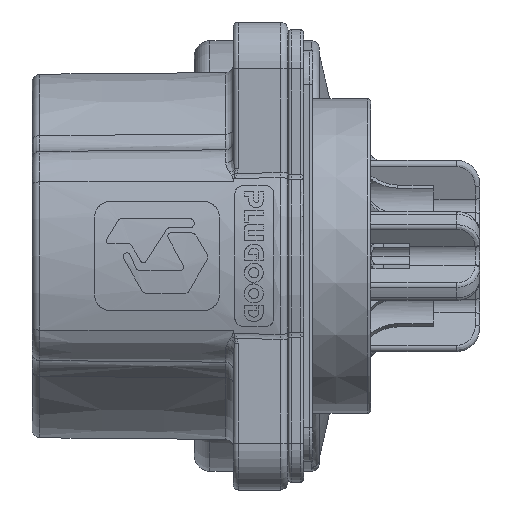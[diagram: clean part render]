
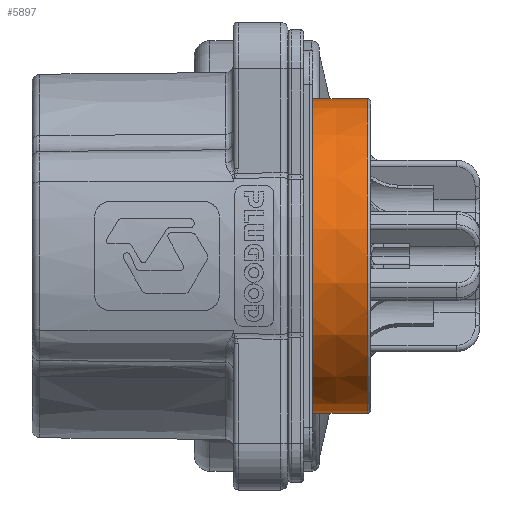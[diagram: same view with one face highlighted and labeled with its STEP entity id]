
A CAD part, front view. The second image highlights one B-rep face of the part: STEP entity #5897.
In plain terms, the highlighted conical face has half-angle 0.2 degrees and reference radius 10.1 mm.
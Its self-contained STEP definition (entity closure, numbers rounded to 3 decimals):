
#336 = CARTESIAN_POINT ( 'NONE',  ( 29.304, 0., 0. ) ) ;
#2543 = ORIENTED_EDGE ( 'NONE', *, *, #42935, .F. ) ;
#5449 = CARTESIAN_POINT ( 'NONE',  ( 35.404, 0., -10.079 ) ) ;
#5897 = ADVANCED_FACE ( 'NONE', ( #24882 ), #39201, .T. ) ;
#6647 = EDGE_CURVE ( 'NONE', #52381, #45086, #8816, .T. ) ;
#7926 = CARTESIAN_POINT ( 'NONE',  ( 31.304, 0., 10.093 ) ) ;
#8816 = CIRCLE ( 'NONE', #29715, 10.079 ) ;
#10886 = DIRECTION ( 'NONE',  ( -1., 0., -0.003 ) ) ;
#11775 = DIRECTION ( 'NONE',  ( -1., 0., 0.003 ) ) ;
#11803 = VECTOR ( 'NONE', #10886, 1000. ) ;
#13127 = AXIS2_PLACEMENT_3D ( 'NONE', #336, #50128, #42528 ) ;
#13334 = CARTESIAN_POINT ( 'NONE',  ( 31.304, 0., -10.093 ) ) ;
#15869 = CARTESIAN_POINT ( 'NONE',  ( 35.404, 0., 10.079 ) ) ;
#19442 = EDGE_CURVE ( 'NONE', #45086, #41836, #44165, .T. ) ;
#20287 = VERTEX_POINT ( 'NONE', #13334 ) ;
#22794 = CARTESIAN_POINT ( 'NONE',  ( 35.404, 0., 0. ) ) ;
#23870 = AXIS2_PLACEMENT_3D ( 'NONE', #37010, #40520, #53521 ) ;
#24882 = FACE_OUTER_BOUND ( 'NONE', #43052, .T. ) ;
#29715 = AXIS2_PLACEMENT_3D ( 'NONE', #22794, #39383, #32558 ) ;
#30871 = EDGE_CURVE ( 'NONE', #20287, #41836, #40336, .T. ) ;
#32558 = DIRECTION ( 'NONE',  ( 0., 0., -1. ) ) ;
#33002 = VECTOR ( 'NONE', #11775, 1000. ) ;
#37010 = CARTESIAN_POINT ( 'NONE',  ( 31.304, 0., 0. ) ) ;
#39201 = CONICAL_SURFACE ( 'NONE', #13127, 10.1, 0.003 ) ;
#39383 = DIRECTION ( 'NONE',  ( -1., 0., 0. ) ) ;
#40336 = CIRCLE ( 'NONE', #23870, 10.093 ) ;
#40520 = DIRECTION ( 'NONE',  ( -1., 0., 0. ) ) ;
#41836 = VERTEX_POINT ( 'NONE', #7926 ) ;
#42528 = DIRECTION ( 'NONE',  ( 0., 0., 1. ) ) ;
#42935 = EDGE_CURVE ( 'NONE', #52381, #20287, #44347, .T. ) ;
#43052 = EDGE_LOOP ( 'NONE', ( #45667, #2543, #50089, #49805 ) ) ;
#44165 = LINE ( 'NONE', #44447, #33002 ) ;
#44347 = LINE ( 'NONE', #48693, #11803 ) ;
#44447 = CARTESIAN_POINT ( 'NONE',  ( 29.304, 0., 10.1 ) ) ;
#45086 = VERTEX_POINT ( 'NONE', #15869 ) ;
#45667 = ORIENTED_EDGE ( 'NONE', *, *, #30871, .F. ) ;
#48693 = CARTESIAN_POINT ( 'NONE',  ( 29.304, 0., -10.1 ) ) ;
#49805 = ORIENTED_EDGE ( 'NONE', *, *, #19442, .T. ) ;
#50089 = ORIENTED_EDGE ( 'NONE', *, *, #6647, .T. ) ;
#50128 = DIRECTION ( 'NONE',  ( -1., 0., 0. ) ) ;
#52381 = VERTEX_POINT ( 'NONE', #5449 ) ;
#53521 = DIRECTION ( 'NONE',  ( 0., 0., -1. ) ) ;
